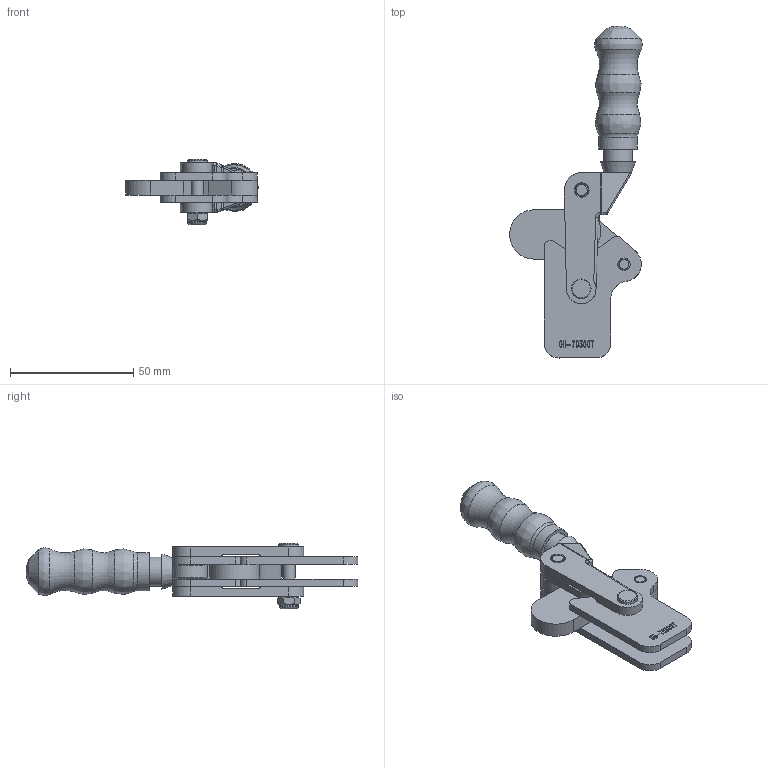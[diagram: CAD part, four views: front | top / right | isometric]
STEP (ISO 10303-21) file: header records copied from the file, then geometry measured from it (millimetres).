
FILE_DESCRIPTION(/* description */ ('STEP AP203'),/* implementation_level */ '2;1');
FILE_NAME(/* name */ 'D:\Vault_2016\Projekty\NASZ KATALOG\CLAMPTEK\STRONA\Heavy duty weldables\CH-70300T\CH-70300T_ZAMKNIETY.stp',/* time_stamp */ '2019-01-21T15:52:22+01:00',/* author */ ('CADENGINEERING4'),/* organization */ ('Microsoft'),/* preprocessor_version */ 'ST-DEVELOPER v17.2',/* originating_system */ 'Autodesk Inventor 2019',/* authorisation */ '');
FILE_SCHEMA (('AUTOMOTIVE_DESIGN { 1 0 10303 214 3 1 1 }'));
Length unit declared in the file: millimetre
Products named in the file (12): CH-70300T_ZAMKNIETY; Ö§¼Ü1; Ö§¼Ü2; ¼Ð¾ßÌå; ºùÂ«Ì×; Ñ¹°Ñ; Á¬¸Ë; ¸ôÌ×; ¶ÌÐ¾Öá; ÂÝ¸Ë; ³¤Ð¾Öá; ·ÀÂÝ
Assembly tree (13 placements, depth 2):
  CH-70300T_ZAMKNIETY
    Ö§¼Ü1
    Ö§¼Ü2
    ¼Ð¾ßÌå
    ºùÂ«Ì×
    Ñ¹°Ñ
    Á¬¸Ë  x2
    ¸ôÌ×
    ¶ÌÐ¾Öá  x2
    ÂÝ¸Ë
    ³¤Ð¾Öá
    ·ÀÂÝ
Bounding box: 53.75 x 134.44 x 26.5 mm (x, y, z)
Volume: 35378.9 mm3; surface area: 25315.7 mm2
Topology: 13 solids, 13 shells, 606 faces, 1688 edges, 1138 vertices
Faces by surface type: plane 293, bspline 175, cylinder 82, cone 38, torus 13, sphere 5
Full cylindrical faces by diameter (mm): 1.735 x1, 1.82 x1, 4.134 x7, 5 x20, 5.16 x4, 5.2 x1, 7.78 x1, 8 x1, 11.7 x1, 12.517 x1, 12.521 x1, 14 x1, 15.5 x1
Entity records: 27896 total; most frequent: CARTESIAN_POINT 13078, ORIENTED_EDGE 3276, DIRECTION 2505, EDGE_CURVE 1638, VERTEX_POINT 1106, LINE 955, VECTOR 955, AXIS2_PLACEMENT_3D 775
